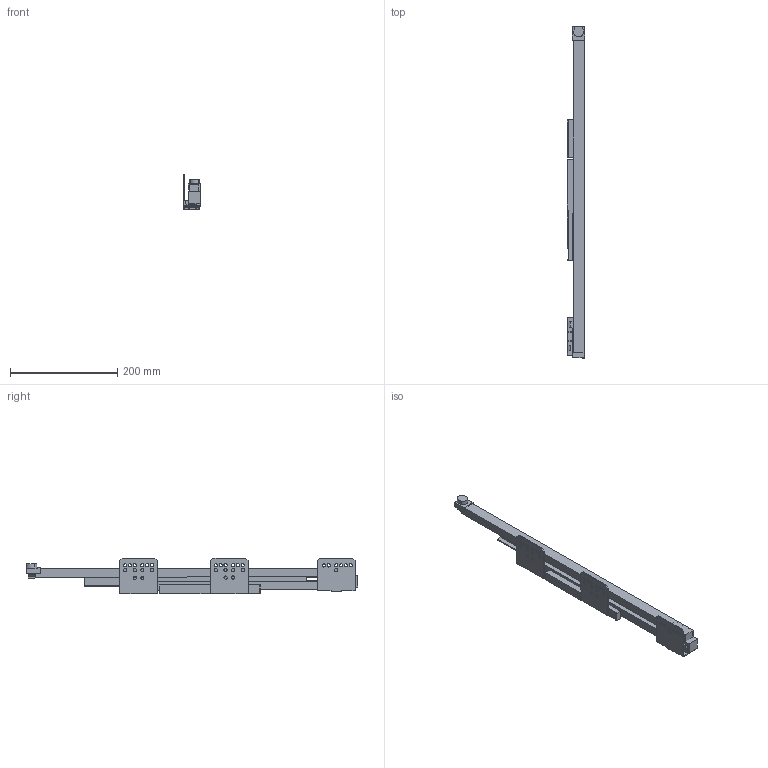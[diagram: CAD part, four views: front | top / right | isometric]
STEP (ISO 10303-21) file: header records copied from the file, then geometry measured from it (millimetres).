
FILE_DESCRIPTION (( 'STEP AP214' ), '1' );
FILE_NAME ('_IMOS Dynamic-XP VA 40kg NL600 LI Tipmatic.step', '2010-07-08T13:26:18', ( 'grass' ), ( '' ), 'SwSTEP 2.0', 'SolidWorks 2010', '' );
FILE_SCHEMA (( 'AUTOMOTIVE_DESIGN' ));
Length unit declared in the file: millimetre
Products named in the file (1): _IMOS Dynamic-XP VA 40kg NL600 LI Tipmatic
Bounding box: 33.14 x 618.02 x 66.67 mm (x, y, z)
Volume: 492410.4 mm3; surface area: 182719 mm2
Topology: 9 solids, 9 shells, 238 faces, 652 edges, 434 vertices
Faces by surface type: plane 167, cylinder 71
Entity records: 7758 total; most frequent: CARTESIAN_POINT 1325, ORIENTED_EDGE 1304, DIRECTION 1274, EDGE_CURVE 652, LINE 508, VECTOR 508, VERTEX_POINT 434, AXIS2_PLACEMENT_3D 383
